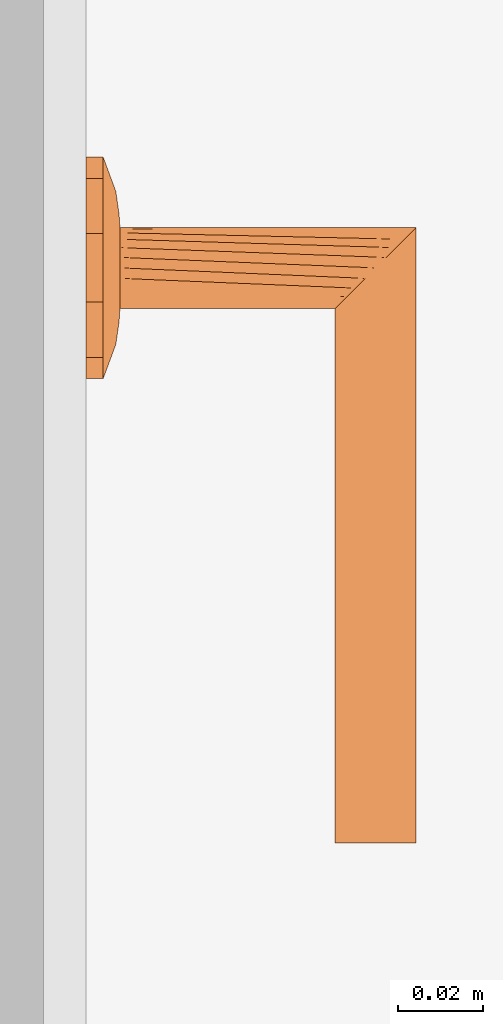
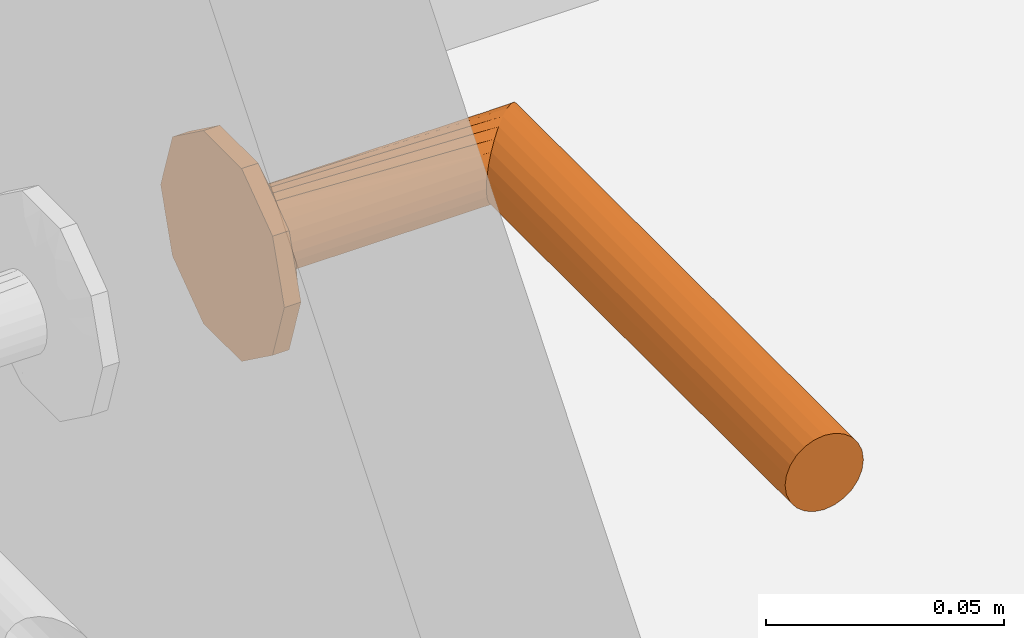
# One storey, part 53 of 68: 1 proxy.
"""IFC2X3 building model written with IfcOpenShell, lengths in millimetres."""

from ifc_helpers import new_model, entity, si_unit, converted_unit, direction, frame, origin, place, context, subcontext, project, spatial, faceted_brep, source, transform, mapped, material, type_object, type_shapes, element, save


model = new_model("IFC2X3")

# Units and contexts
model_context = context("Model", 3, precision=0.01, world=origin(), true_north=direction((6.123233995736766e-17, 1.0)))
plan_context = context("Plan", 3, precision=0.01, world=origin(), true_north=direction((6.123233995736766e-17, 1.0)))
body_context = subcontext(model_context, "Body", "Model", "MODEL_VIEW")
ifc_project = project(units=[si_unit("LENGTHUNIT", "METRE", prefix="MILLI"), converted_unit("PLANEANGLEUNIT", "DEGREE", entity("IfcPlaneAngleMeasure", 0.017453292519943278), si_unit("PLANEANGLEUNIT", "RADIAN"), dimensions=[0, 0, 0, 0, 0, 0, 0]), si_unit("AREAUNIT", "SQUARE_METRE")], contexts=[model_context, plan_context])

# Site, building, storey, space
site_placement = place(None, origin())
site = spatial("IfcSite", under=ifc_project, at=site_placement, Name="Default", CompositionType="ELEMENT")
building_placement = place(site_placement, origin())
building = spatial("IfcBuilding", under=site, at=building_placement, CompositionType="ELEMENT")
storey_placement = place(building_placement, frame((0.0, 0.0, 6295.0)))
storey = spatial("IfcBuildingStorey", under=building, at=storey_placement, Name="3K", CompositionType="ELEMENT", Elevation=6294.999999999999)
space_placement = place(storey_placement, origin())
space = spatial("IfcSpace", under=storey, at=space_placement, Name="3-6.1", CompositionType="ELEMENT", InteriorOrExteriorSpace="INTERNAL")

# Proxy
ifc_material = material(Name="<Unnamed>")
building_element_proxy_type = type_object("IfcBuildingElementProxyType", Name="Door-handle_Lever_ABLOY_INOXI_3-19ss-002_RT:Default", PredefinedType="NOTDEFINED", material=ifc_material)
shared_shape = source(origin(), body_context, "Body", "Brep", [
    faceted_brep([(0.0, 0.0, 0.0), (21.034441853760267, -15.282416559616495, 0.0), (14.534441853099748, -20.00494299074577, 0.0), (8.034441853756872, -24.72746942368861, 0.0), (0.0, -24.72746942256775, 0.0), (23.51722092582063, -7.6412082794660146, 0.0), (26.0, 0.0, 0.0), (-8.034441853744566, -24.727469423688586, 0.0), (-14.534441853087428, -20.00494299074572, 0.0), (-21.03444185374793, -15.282416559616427, 0.0), (-23.517220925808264, -7.641208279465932, 0.0), (-26.0, 0.0, 0.0), (-23.517220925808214, 7.641208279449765, 0.0), (23.517220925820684, 7.641208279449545, 0.0), (21.034441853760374, 15.282416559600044, 0.0), (14.53444185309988, 20.00494299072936, 0.0), (8.034441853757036, 24.72746942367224, 0.0), (-21.034441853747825, 15.282416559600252, 0.0), (-14.53444185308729, 20.004942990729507, 0.0), (-8.0344418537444, 24.72746942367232, 0.0), (0.0, 24.72746942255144, 0.0), (0.0, 0.0, 8.0), (4.7500000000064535, -8.227241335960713, 8.0), (5.937500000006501, -6.170431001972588, 8.0), (7.125000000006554, -4.113620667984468, 8.0), (8.312500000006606, -2.0568103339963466, 8.0), (9.500000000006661, 0.0, 8.0), (8.312500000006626, 2.056810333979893, 8.0), (2.3750000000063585, -8.227241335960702, 8.0), (0.0, -8.227241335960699, 8.0), (-2.3749999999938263, -8.227241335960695, 8.0), (-4.749999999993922, -8.227241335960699, 8.0), (-5.937499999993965, -6.170431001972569, 8.0), (-7.124999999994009, -4.113620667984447, 8.0), (-8.312499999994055, -2.056810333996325, 8.0), (-9.499999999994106, 0.0, 8.0), (7.125000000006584, 4.113620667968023, 8.0), (5.937500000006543, 6.170431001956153, 8.0), (4.750000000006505, 8.227241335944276, 8.0), (2.3750000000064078, 8.22724133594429, 8.0), (-8.31249999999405, 2.0568103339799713, 8.0), (-7.12499999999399, 4.113620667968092, 8.0), (-5.9374999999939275, 6.170431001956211, 8.0), (-4.74999999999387, 8.227241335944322, 8.0), (0.0, 8.227241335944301, 8.0), (-2.374999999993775, 8.227241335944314, 8.0), (-22.488765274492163, -10.806469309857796, 4.030771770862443), (-16.663919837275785, -7.932665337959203, 6.877259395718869), (-20.643071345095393, -6.292822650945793, 5.929480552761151), (-12.50457926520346, -5.179566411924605, 7.774932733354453), (-16.764060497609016, -3.820257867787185, 7.1747985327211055), (-9.071726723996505, -10.311606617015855, 7.7520782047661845), (-11.963426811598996, -8.625290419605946, 7.618343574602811), (-11.979136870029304, -13.678312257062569, 6.945778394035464), (5.7585542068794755, -20.96753300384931, 5.871476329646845), (0.0, -24.72746942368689, 4.030771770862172), (8.03444185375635, -24.727469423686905, 4.030771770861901), (16.66391982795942, -7.932665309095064, 6.877259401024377), (22.488765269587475, -10.806469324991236, 4.03077177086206), (20.64307133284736, -6.29282258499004, 5.929480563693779), (14.534441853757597, -20.004942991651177, 4.030771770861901), (9.499431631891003, -18.64368355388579, 6.154325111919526), (-15.783149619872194, -11.991003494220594, 6.50080018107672), (-21.034441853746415, -15.282416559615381, 4.030771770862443), (-14.53444185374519, -20.00494299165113, 4.030771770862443), (-23.012042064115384, 0.0, 5.135401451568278), (-23.943088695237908, -6.330522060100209, 4.030771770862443), (11.96342678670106, -8.62529049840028, 7.618343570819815), (12.504579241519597, -5.179566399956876, 7.774932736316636), (16.764060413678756, -3.8202578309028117, 7.17479855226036), (15.783149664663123, -11.991003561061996, 6.50080015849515), (17.985351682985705, 0.0, 6.993737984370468), (23.012042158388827, 0.0, 5.135401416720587), (8.661516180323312, -10.478936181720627, 7.768126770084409), (-8.03444185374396, -24.727469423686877, 4.030771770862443), (-3.3573143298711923, -21.197247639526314, 5.971427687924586), (-9.941915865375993, -17.061976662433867, 6.522757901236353), (-5.973257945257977, -16.430139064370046, 7.110979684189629), (-7.711266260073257, -12.760344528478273, 7.594456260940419), (11.979136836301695, -13.678312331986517, 6.945778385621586), (7.511307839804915, -13.358932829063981, 7.529187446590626), (5.953298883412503, -16.50608604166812, 7.096344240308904), (-1.5654593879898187, -15.307443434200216, 7.519134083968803), (-7.784980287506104, -20.476295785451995, 5.812837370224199), (2.8135289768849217, -17.76392260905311, 6.993737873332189), (-17.98535168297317, 0.0, 6.993737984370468), (-26.0, 0.0, 4.030771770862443), (-23.51722092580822, -7.641208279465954, 4.030771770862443), (23.943088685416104, -6.33052209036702, 4.030771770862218), (24.308823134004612, -5.204907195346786, 4.030771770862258), (26.0, 0.0, 4.030771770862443), (21.03444185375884, -15.282416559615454, 4.030771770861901), (22.617646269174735, -10.40981439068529, 4.030771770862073), (22.488765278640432, 10.806469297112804, 4.030771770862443), (16.66391984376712, 7.932665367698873, 6.877259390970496), (20.643071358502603, 6.292822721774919, 5.929480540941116), (12.504579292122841, 5.179566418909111, 7.774932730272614), (16.764060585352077, 3.8202579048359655, 7.174798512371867), (9.07172672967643, 10.31160659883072, 7.752078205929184), (11.963426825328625, 8.62529034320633, 7.618343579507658), (11.979136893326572, 13.67831220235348, 6.9457784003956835), (-5.758554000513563, 20.96753314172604, 5.8714763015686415), (0.0, 24.72746942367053, 4.030771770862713), (-8.03444185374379, 24.72746942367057, 4.030771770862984), (-16.663919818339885, 7.932665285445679, 6.877259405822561), (-22.48876526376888, 10.806469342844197, 4.030771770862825), (-20.643071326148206, 6.2928225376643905, 5.929480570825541), (-14.534441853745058, 20.004942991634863, 4.030771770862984), (-9.499431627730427, 18.643683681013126, 6.154325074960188), (15.783149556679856, 11.991003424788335, 6.5008002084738), (21.03444185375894, 15.282416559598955, 4.030771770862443), (14.534441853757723, 20.004942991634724, 4.030771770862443), (23.943088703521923, 6.330522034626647, 4.030771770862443), (-11.96342675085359, 8.625290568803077, 7.618343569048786), (-12.504579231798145, 5.179566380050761, 7.77493273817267), (-16.764060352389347, 3.820257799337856, 7.174798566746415), (-15.78314967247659, 11.991003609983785, 6.500800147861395), (-8.661516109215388, 10.478936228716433, 7.768126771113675), (8.034441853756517, 24.727469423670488, 4.030771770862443), (3.3573144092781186, 21.197247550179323, 5.971427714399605), (9.941915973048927, 17.061976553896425, 6.522757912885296), (5.9732581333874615, 16.430139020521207, 7.110979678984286), (7.711266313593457, 12.760344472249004, 7.5944562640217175), (-11.979136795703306, 13.678312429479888, 6.945778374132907), (-7.511307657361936, 13.358932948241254, 7.5291874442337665), (-5.9532988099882, 16.50608628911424, 7.096344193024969), (1.5654596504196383, 15.3074431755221, 7.519134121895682), (7.784980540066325, 20.476295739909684, 5.812837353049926), (-2.81352881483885, 17.76392263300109, 6.993737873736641), (23.51722092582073, 7.6412082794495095, 4.030771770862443), (-23.94308867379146, 6.330522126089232, 4.030771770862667), (-24.308823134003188, 5.20490719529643, 4.030771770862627), (-21.034441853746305, 15.282416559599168, 4.030771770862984), (-22.617646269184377, 10.409814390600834, 4.0307717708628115)], [[[0, 1, 2]], [[0, 2, 3]], [[0, 3, 4]], [[0, 5, 1]], [[0, 6, 5]], [[0, 4, 7]], [[0, 7, 8]], [[0, 8, 9]], [[0, 9, 10]], [[0, 10, 11]], [[0, 11, 12]], [[0, 13, 6]], [[0, 14, 13]], [[0, 15, 14]], [[0, 16, 15]], [[0, 12, 17]], [[0, 17, 18]], [[0, 18, 19]], [[0, 19, 20]], [[0, 20, 16]], [[21, 22, 23]], [[21, 23, 24]], [[21, 24, 25]], [[21, 25, 26]], [[21, 26, 27]], [[21, 28, 22]], [[21, 29, 28]], [[21, 30, 29]], [[21, 31, 30]], [[21, 32, 31]], [[21, 33, 32]], [[21, 34, 33]], [[21, 35, 34]], [[21, 27, 36]], [[21, 36, 37]], [[21, 37, 38]], [[21, 38, 39]], [[21, 40, 35]], [[21, 41, 40]], [[21, 42, 41]], [[21, 43, 42]], [[21, 39, 44]], [[21, 44, 45]], [[21, 45, 43]], [[46, 47, 48]], [[47, 49, 50]], [[49, 33, 34]], [[51, 52, 53]], [[49, 52, 33]], [[48, 47, 50]], [[54, 55, 56]], [[57, 58, 59]], [[56, 60, 61]], [[62, 63, 64]], [[65, 66, 48]], [[67, 57, 68]], [[68, 69, 25]], [[57, 67, 70]], [[69, 26, 25]], [[62, 53, 52]], [[71, 69, 72]], [[67, 23, 73]], [[74, 55, 75]], [[76, 77, 78]], [[79, 60, 70]], [[69, 59, 72]], [[80, 81, 61]], [[77, 30, 78]], [[82, 30, 77]], [[28, 80, 22]], [[77, 83, 75]], [[75, 82, 77]], [[55, 84, 75]], [[85, 50, 35]], [[24, 68, 25]], [[82, 84, 29]], [[84, 82, 75]], [[31, 78, 30]], [[82, 29, 30]], [[34, 35, 50]], [[52, 49, 47]], [[62, 52, 47]], [[34, 50, 49]], [[53, 78, 51]], [[32, 33, 52]], [[85, 65, 50]], [[66, 65, 86]], [[67, 68, 24]], [[77, 76, 83]], [[65, 48, 50]], [[63, 62, 46]], [[48, 66, 87, 46]], [[62, 47, 46]], [[69, 68, 57]], [[80, 73, 22]], [[70, 67, 79]], [[67, 24, 23]], [[72, 88, 89, 90]], [[69, 71, 26]], [[59, 69, 57]], [[61, 60, 79]], [[62, 64, 53]], [[91, 58, 70]], [[72, 59, 88]], [[57, 70, 58]], [[59, 58, 92]], [[80, 61, 79]], [[91, 70, 60]], [[61, 81, 54]], [[73, 80, 79]], [[28, 84, 81]], [[67, 73, 79]], [[29, 84, 28]], [[22, 73, 23]], [[51, 31, 32]], [[76, 78, 53]], [[53, 64, 76]], [[83, 64, 74]], [[64, 83, 76]], [[75, 83, 74]], [[31, 51, 78]], [[52, 51, 32]], [[28, 81, 80]], [[54, 81, 84]], [[55, 54, 84]], [[61, 54, 56]], [[93, 94, 95]], [[94, 96, 97]], [[96, 36, 27]], [[98, 99, 100]], [[96, 99, 36]], [[95, 94, 97]], [[101, 102, 103]], [[104, 105, 106]], [[103, 107, 108]], [[109, 110, 111]], [[72, 112, 95]], [[113, 104, 114]], [[114, 115, 40]], [[104, 113, 116]], [[115, 35, 40]], [[109, 100, 99]], [[85, 115, 65]], [[113, 42, 117]], [[118, 102, 119]], [[120, 121, 122]], [[123, 107, 116]], [[115, 106, 65]], [[124, 125, 108]], [[121, 39, 122]], [[126, 39, 121]], [[45, 124, 43]], [[121, 127, 119]], [[119, 126, 121]], [[102, 128, 119]], [[71, 97, 26]], [[41, 114, 40]], [[126, 128, 44]], [[128, 126, 119]], [[38, 122, 39]], [[126, 44, 39]], [[27, 26, 97]], [[99, 96, 94]], [[109, 99, 94]], [[27, 97, 96]], [[100, 122, 98]], [[37, 36, 99]], [[71, 72, 97]], [[112, 72, 90]], [[113, 114, 41]], [[121, 120, 127]], [[72, 95, 97]], [[110, 109, 93]], [[95, 112, 129, 93]], [[109, 94, 93]], [[115, 114, 104]], [[124, 117, 43]], [[116, 113, 123]], [[113, 41, 42]], [[65, 130, 131, 86]], [[115, 85, 35]], [[106, 115, 104]], [[108, 107, 123]], [[109, 111, 100]], [[132, 105, 116]], [[65, 106, 130]], [[104, 116, 105]], [[106, 105, 133]], [[124, 108, 123]], [[132, 116, 107]], [[108, 125, 101]], [[117, 124, 123]], [[45, 128, 125]], [[113, 117, 123]], [[44, 128, 45]], [[43, 117, 42]], [[98, 38, 37]], [[120, 122, 100]], [[100, 111, 120]], [[127, 111, 118]], [[111, 127, 120]], [[119, 127, 118]], [[38, 98, 122]], [[99, 98, 37]], [[45, 125, 124]], [[101, 125, 128]], [[102, 101, 128]], [[108, 101, 103]], [[7, 74, 64, 63, 9, 8]], [[10, 9, 63, 46, 87, 66, 86, 11]], [[6, 90, 89, 88, 92, 1, 5]], [[1, 58, 91]], [[74, 7, 4, 3, 56, 55]], [[60, 56, 3, 2, 1, 91]], [[1, 92, 58]], [[14, 110, 93, 129, 112, 90, 6, 13]], [[111, 110, 14, 15, 16, 118]], [[11, 86, 131, 130, 133, 17, 12]], [[17, 105, 132]], [[118, 16, 20, 19, 103, 102]], [[107, 103, 19, 18, 17, 132]], [[17, 133, 105]], [[59, 92, 88]], [[106, 133, 130]]]),
    faceted_brep([(4.7499999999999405, -8.22724133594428, 8.0), (2.4587809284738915, -9.176295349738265, 8.0), (0.0, -9.499999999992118, 8.0), (-2.4587809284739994, -9.176295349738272, 8.0), (-4.7500000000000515, -8.227241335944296, 8.0), (-6.717514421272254, -6.717514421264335, 8.0), (-8.227241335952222, -4.74999999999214, 8.0), (-9.176295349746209, -2.4587809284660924, 8.0), (-9.500000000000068, 0.0, 8.0), (-9.176295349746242, 2.458780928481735, 8.0), (-8.227241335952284, 4.750000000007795, 8.0), (-6.717514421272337, 6.717514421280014, 8.0), (-4.750000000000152, 8.227241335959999, 8.0), (-2.4587809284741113, 9.176295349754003, 8.0), (0.0, 9.500000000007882, 8.0), (2.4587809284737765, 9.176295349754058, 8.0), (4.7499999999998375, 8.227241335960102, 8.0), (6.717514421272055, 6.717514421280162, 8.0), (8.22724133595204, 4.75000000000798, 8.0), (9.17629534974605, 2.458780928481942, 8.0), (9.499999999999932, 0.0, 8.0), (9.17629534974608, -2.458780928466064, 8.0), (8.227241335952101, -4.749999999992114, 8.0), (6.717514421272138, -6.7175144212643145, 8.0), (-8.227241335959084, 4.7499999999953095, 59.772758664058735), (-6.717514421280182, 6.7175144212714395, 61.282485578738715), (-9.176295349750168, 2.458780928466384, 58.82370465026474), (-4.750000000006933, 8.227241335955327, 63.25000000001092), (-2.4587809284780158, 9.176295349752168, 65.54121907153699), (-9.500000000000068, 0.0, 58.50000000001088), (0.0, 9.50000000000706, 68.0), (4.750000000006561, 8.227241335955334, 72.75000000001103), (2.4587809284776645, 9.17629534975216, 70.45878092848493), (6.717514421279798, 6.7175144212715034, 74.71751442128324), (8.22724133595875, 4.749999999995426, 76.22724133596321), (9.17629534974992, 2.458780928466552, 77.17629534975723), (9.499999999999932, 0.0, 77.50000000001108), (9.176295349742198, -2.4587809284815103, 77.1762953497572), (8.227241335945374, -4.750000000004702, 76.22724133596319), (6.7175144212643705, -6.717514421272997, 74.7175144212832), (4.749999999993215, -8.227241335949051, 72.75000000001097), (2.4587809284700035, -9.17629534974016, 70.45878092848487), (0.0, -9.49999999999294, 68.0), (-2.4587809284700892, -9.176295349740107, 65.54121907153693), (-4.749999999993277, -8.227241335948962, 63.250000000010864), (-6.717514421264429, -6.717514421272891, 61.282485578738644), (-9.176295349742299, -2.458780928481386, 58.8237046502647), (-8.227241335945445, -4.750000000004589, 59.77275866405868), (-135.0, -9.176295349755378, 70.4587809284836), (-135.0, -8.227241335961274, 72.75000000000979), (-135.0, -6.717514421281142, 74.71751442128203), (-135.0, -4.750000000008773, 76.22724133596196), (-135.0, -2.4587809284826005, 77.17629534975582), (-135.0, 0.0, 77.5000000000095), (-135.0, 2.4587809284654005, 77.17629534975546), (-135.0, 4.749999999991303, 76.22724133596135), (-135.0, 6.717514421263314, 74.71751442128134), (-135.0, 8.227241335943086, 72.75000000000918), (-135.0, 9.17629534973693, 70.45878092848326), (-135.0, 9.499999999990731, 68.0), (-135.0, 9.17629534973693, 65.54121907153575), (-135.0, 8.227241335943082, 63.250000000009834), (-135.0, 6.717514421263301, 61.28248557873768), (-135.0, 4.749999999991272, 59.772758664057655), (-135.0, 2.458780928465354, 58.823704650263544), (-135.0, 0.0, 58.50000000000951), (-135.0, -2.458780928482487, 58.82370465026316), (-135.0, -4.750000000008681, 59.772758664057), (-135.0, -6.7175144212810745, 61.28248557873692), (-135.0, -8.227241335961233, 63.25000000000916), (-135.0, -9.176295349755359, 65.54121907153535), (-135.0, -9.500000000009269, 68.0)], [[[0, 1, 2, 3, 4, 5, 6, 7, 8, 9, 10, 11, 12, 13, 14, 15, 16, 17, 18, 19, 20, 21, 22, 23]], [[24, 25, 11, 10]], [[26, 24, 10, 9]], [[14, 27, 28]], [[13, 27, 14]], [[25, 27, 13]], [[29, 26, 9, 8]], [[12, 11, 25]], [[25, 13, 12]], [[28, 30, 15]], [[31, 17, 32]], [[33, 18, 31]], [[19, 34, 35]], [[33, 34, 19]], [[20, 19, 35, 36]], [[16, 15, 30]], [[14, 28, 15]], [[19, 18, 33]], [[17, 31, 18]], [[17, 16, 32]], [[30, 32, 16]], [[20, 36, 37, 21]], [[38, 21, 37]], [[22, 39, 40]], [[38, 39, 21]], [[23, 40, 41]], [[39, 22, 21]], [[1, 42, 43]], [[42, 1, 0]], [[23, 41, 0]], [[23, 22, 40]], [[41, 42, 0]], [[44, 45, 3]], [[43, 44, 2]], [[46, 29, 8, 7]], [[47, 46, 7, 6]], [[45, 47, 6, 5]], [[45, 4, 3]], [[3, 2, 44]], [[5, 4, 45]], [[43, 2, 1]], [[48, 49, 50, 51, 52, 53, 54, 55, 56, 57, 58, 59, 60, 61, 62, 63, 64, 65, 66, 67, 68, 69, 70, 71]], [[64, 63, 24, 26]], [[65, 64, 26, 29]], [[61, 60, 28, 27]], [[62, 61, 27, 25]], [[63, 62, 25, 24]], [[59, 30, 28, 60]], [[57, 56, 33, 31]], [[58, 57, 31, 32]], [[54, 53, 36, 35]], [[55, 54, 35, 34]], [[56, 55, 34, 33]], [[32, 30, 59, 58]], [[52, 51, 38, 37]], [[53, 52, 37, 36]], [[49, 48, 41, 40]], [[50, 49, 40, 39]], [[51, 50, 39, 38]], [[42, 41, 48, 71]], [[69, 68, 45, 44]], [[70, 69, 44, 43]], [[66, 65, 29, 46]], [[67, 66, 46, 47]], [[68, 67, 47, 45]], [[42, 71, 70, 43]]]),
])
type_shapes(building_element_proxy_type, [shared_shape])
proxy_placement = place(space_placement, frame((5298.0, 10430.0, 1000.0), z_axis=(1.0, 0.0, 0.0), x_axis=(0.0, 1.0, 0.0)))
element("IfcBuildingElementProxy", 1, at=proxy_placement, inside=space, type_object=building_element_proxy_type, material=ifc_material, Name="Door-handle_Lever_ABLOY_INOXI_3-19ss-002_RT:Default", ObjectType="Door-handle_Lever_ABLOY_INOXI_3-19ss-002_RT:Default", context=body_context, shape_type="MappedRepresentation", body=[
    mapped(shared_shape, transform((0.0, 0.0, 0.0), scale=1.0)),
])

save(model, "model.ifc")
